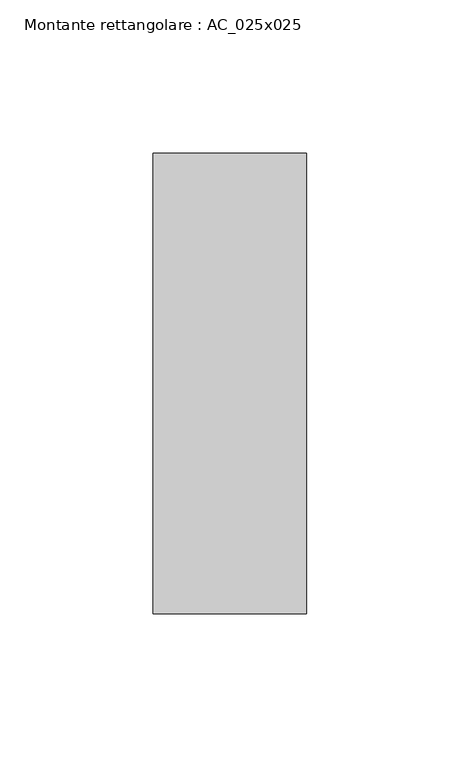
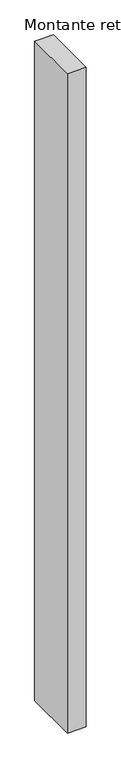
"""IFC4 building model written with IfcOpenShell, lengths in millimetres: member geometry, Montante rettangolare : AC_025x025."""

from ifc_helpers import new_model, si_unit, frame, origin, place, context, project, spatial, polyline, outline, extrude, source, transform, mapped, element, save


def montante_rettangolare_ac_025x025_25a4d1a1(model_context):
    return source(origin(), model_context, "Body", "SweptSolid", [
        extrude(outline(polyline([(0.0, 75.0), (0.0, -75.0), (-50.0, -75.0), (-50.0, 75.0), (0.0, 75.0)])), frame((0.0, 0.0, -1850.0), z_axis=(0.0, 0.0, 1.0), x_axis=(1.0, 0.0, 0.0)), (0.0, 0.0, 1.0), 1850.0),
    ])


if __name__ == "__main__":
    model = new_model("IFC4")
    model_context = context("Model", 3, world=origin())
    ifc_project = project(units=[si_unit("LENGTHUNIT", "METRE", prefix="MILLI")], contexts=[model_context])
    site = spatial("IfcSite", under=ifc_project)
    building = spatial("IfcBuilding", under=site)
    placement = place(None, origin())
    montante_rettangolare_ac_025x025_shape = montante_rettangolare_ac_025x025_25a4d1a1(model_context)
    element("IfcMember", 1, ObjectType="Montante rettangolare : AC_025x025", at=placement, inside=building, context=model_context, shape_type="MappedRepresentation", body=[
        mapped(montante_rettangolare_ac_025x025_shape, transform((0.0, 0.0, 0.0), x_axis=(1.0, 0.0, 0.0), y_axis=(0.0, 1.0, 0.0), z_axis=(0.0, 0.0, 1.0))),
    ])
    save(model, "model.ifc")
